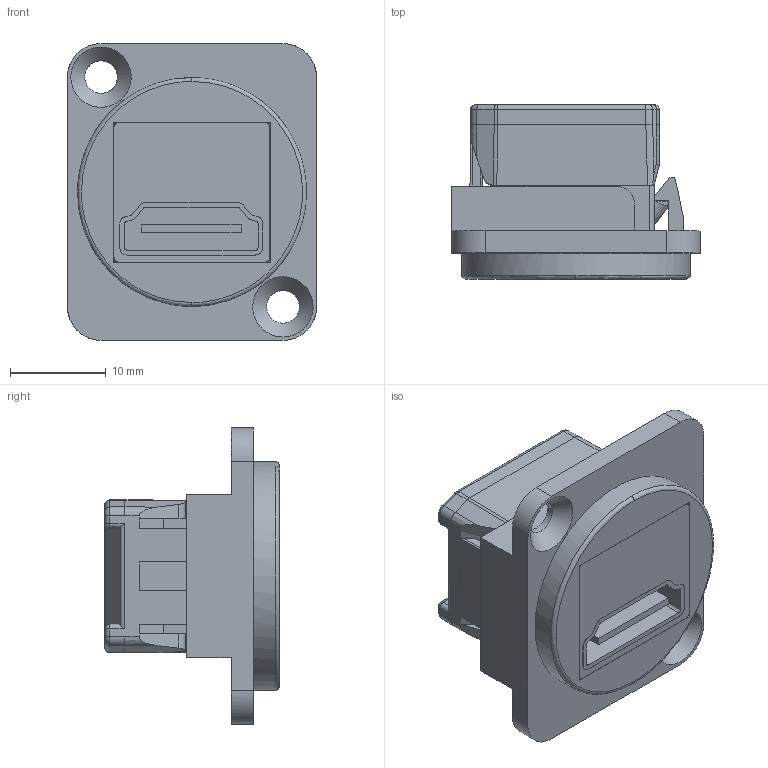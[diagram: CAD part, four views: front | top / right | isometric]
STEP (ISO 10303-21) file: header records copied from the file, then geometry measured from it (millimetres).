
FILE_DESCRIPTION(('FreeCAD Model'),'2;1');
FILE_NAME('Open CASCADE Shape Model','2026-05-13T14:28:04',(''),(''), 'Open CASCADE STEP processor 7.8','FreeCAD','Unknown');
FILE_SCHEMA(('AUTOMOTIVE_DESIGN { 1 0 10303 214 1 1 1 1 }'));
Length unit declared in the file: millimetre
Products named in the file (3): PMNST_HDMI_BK; 3013BUSXLRBK; 210HD06G2xx
Assembly tree (2 placements, depth 2):
  PMNST_HDMI_BK
    3013BUSXLRBK
    210HD06G2xx
Bounding box: 26 x 18.2 x 31 mm (x, y, z)
Volume: 6243.4 mm3; surface area: 5438.2 mm2
Topology: 2 solids, 2 shells, 235 faces, 646 edges, 422 vertices
Faces by surface type: bspline 235
Entity records: 11948 total; most frequent: CARTESIAN_POINT 7994, ORIENTED_EDGE 1292, EDGE_CURVE 646, B_SPLINE_CURVE_WITH_KNOTS 644, VERTEX_POINT 422, FACE_BOUND 248, EDGE_LOOP 248, ADVANCED_FACE 235
